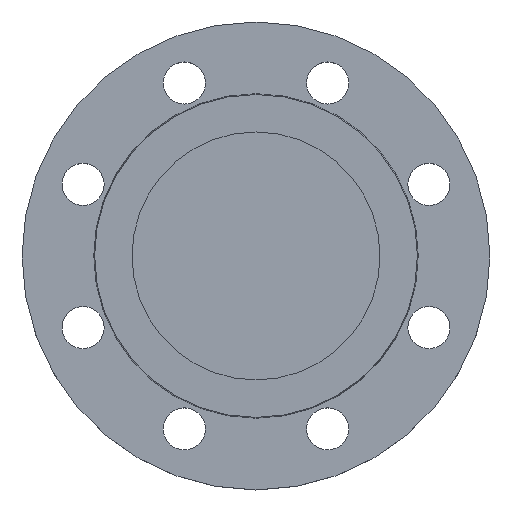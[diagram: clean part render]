
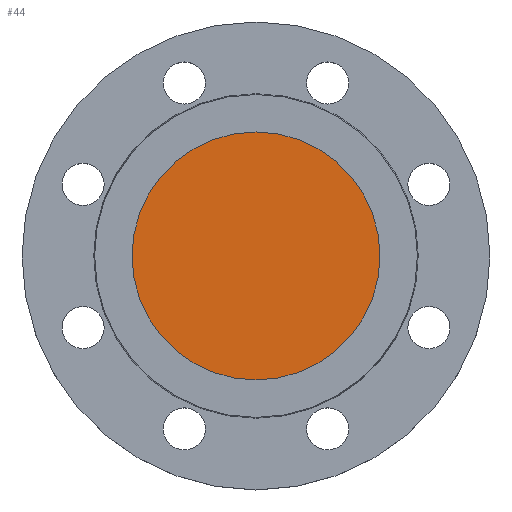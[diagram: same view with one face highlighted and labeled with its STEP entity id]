
A CAD part, top view. The second image highlights one B-rep face of the part: STEP entity #44.
In plain terms, the highlighted planar face has unit normal (0, 0, 1).
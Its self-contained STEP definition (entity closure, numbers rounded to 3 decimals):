
#44 = ADVANCED_FACE ( 'NONE', ( #798 ), #799, .T. ) ;
#242 = CARTESIAN_POINT ( 'NONE',  ( 53., 0., -4.5 ) ) ;
#244 = CARTESIAN_POINT ( 'NONE',  ( -53., 0., -4.5 ) ) ;
#352 = DIRECTION ( 'NONE',  ( -1., 0., 0. ) ) ;
#353 = DIRECTION ( 'NONE',  ( 0., 0., -1. ) ) ;
#354 = CARTESIAN_POINT ( 'NONE',  ( 0., 0., -4.5 ) ) ;
#429 = EDGE_CURVE ( 'NONE', #890, #887, #649, .T. ) ;
#445 = DIRECTION ( 'NONE',  ( -1., 0., 0. ) ) ;
#446 = DIRECTION ( 'NONE',  ( 0., 0., -1. ) ) ;
#447 = CARTESIAN_POINT ( 'NONE',  ( 0., 0., -4.5 ) ) ;
#530 = AXIS2_PLACEMENT_3D ( 'NONE', #447, #446, #445 ) ;
#538 = ORIENTED_EDGE ( 'NONE', *, *, #702, .F. ) ;
#540 = ORIENTED_EDGE ( 'NONE', *, *, #429, .F. ) ;
#649 = CIRCLE ( 'NONE', #530, 53. ) ;
#702 = EDGE_CURVE ( 'NONE', #887, #890, #777, .T. ) ;
#731 = EDGE_LOOP ( 'NONE', ( #538, #540 ) ) ;
#777 = CIRCLE ( 'NONE', #785, 53. ) ;
#785 = AXIS2_PLACEMENT_3D ( 'NONE', #354, #353, #352 ) ;
#798 = FACE_OUTER_BOUND ( 'NONE', #731, .T. ) ;
#799 = PLANE ( 'NONE',  #834 ) ;
#800 = CARTESIAN_POINT ( 'NONE',  ( 0., 0., -4.5 ) ) ;
#801 = DIRECTION ( 'NONE',  ( 0., 0., 1. ) ) ;
#802 = DIRECTION ( 'NONE',  ( 1., 0., 0. ) ) ;
#834 = AXIS2_PLACEMENT_3D ( 'NONE', #800, #801, #802 ) ;
#887 = VERTEX_POINT ( 'NONE', #244 ) ;
#890 = VERTEX_POINT ( 'NONE', #242 ) ;
